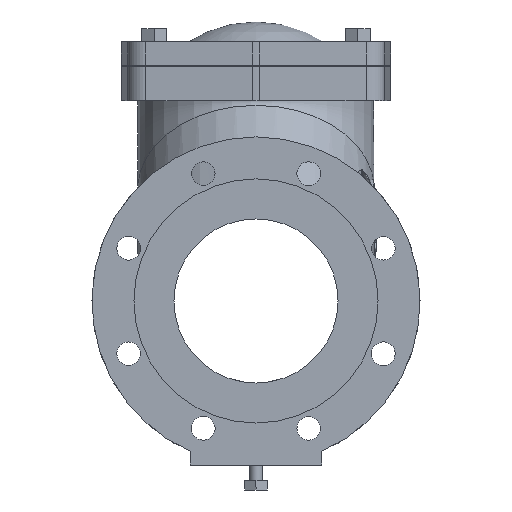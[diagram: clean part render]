
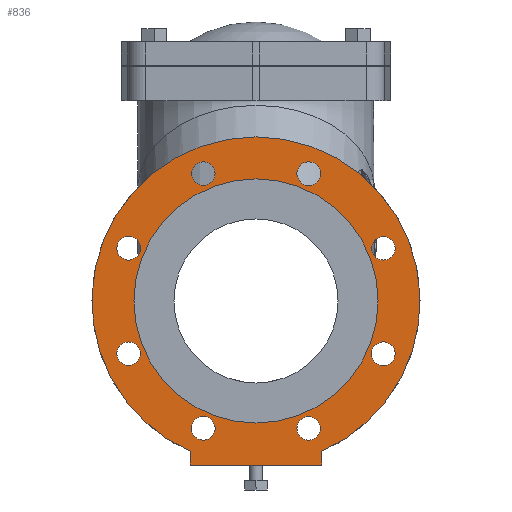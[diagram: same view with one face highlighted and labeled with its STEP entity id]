
A CAD part, front view. The second image highlights one B-rep face of the part: STEP entity #836.
In plain terms, the highlighted planar face has unit normal (0, -1, 0).
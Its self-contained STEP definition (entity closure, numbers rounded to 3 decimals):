
#836 = ADVANCED_FACE( '', ( #1819, #1820, #1821, #1822, #1823, #1824, #1825, #1826, #1827, #1828 ), #1829, .F. );
#1819 = FACE_OUTER_BOUND( '', #9473, .T. );
#1820 = FACE_BOUND( '', #9474, .T. );
#1821 = FACE_BOUND( '', #9475, .T. );
#1822 = FACE_BOUND( '', #9476, .T. );
#1823 = FACE_BOUND( '', #9477, .T. );
#1824 = FACE_BOUND( '', #9478, .T. );
#1825 = FACE_BOUND( '', #9479, .T. );
#1826 = FACE_BOUND( '', #9480, .T. );
#1827 = FACE_BOUND( '', #9481, .T. );
#1828 = FACE_BOUND( '', #9482, .T. );
#1829 = PLANE( '', #9483 );
#9473 = EDGE_LOOP( '', ( #13332, #13333, #13334, #13335 ) );
#9474 = EDGE_LOOP( '', ( #13336 ) );
#9475 = EDGE_LOOP( '', ( #13337 ) );
#9476 = EDGE_LOOP( '', ( #13338 ) );
#9477 = EDGE_LOOP( '', ( #13339 ) );
#9478 = EDGE_LOOP( '', ( #13340 ) );
#9479 = EDGE_LOOP( '', ( #13341 ) );
#9480 = EDGE_LOOP( '', ( #13342 ) );
#9481 = EDGE_LOOP( '', ( #13343 ) );
#9482 = EDGE_LOOP( '', ( #13344 ) );
#9483 = AXIS2_PLACEMENT_3D( '', #13345, #13346, #13347 );
#13332 = ORIENTED_EDGE( '', *, *, #15056, .T. );
#13333 = ORIENTED_EDGE( '', *, *, #14766, .T. );
#13334 = ORIENTED_EDGE( '', *, *, #14784, .T. );
#13335 = ORIENTED_EDGE( '', *, *, #15057, .T. );
#13336 = ORIENTED_EDGE( '', *, *, #14890, .F. );
#13337 = ORIENTED_EDGE( '', *, *, #15046, .T. );
#13338 = ORIENTED_EDGE( '', *, *, #14846, .T. );
#13339 = ORIENTED_EDGE( '', *, *, #15058, .T. );
#13340 = ORIENTED_EDGE( '', *, *, #14564, .T. );
#13341 = ORIENTED_EDGE( '', *, *, #14132, .T. );
#13342 = ORIENTED_EDGE( '', *, *, #14886, .T. );
#13343 = ORIENTED_EDGE( '', *, *, #14418, .T. );
#13344 = ORIENTED_EDGE( '', *, *, #14854, .T. );
#13345 = CARTESIAN_POINT( '', ( 0., -172., 93. ) );
#13346 = DIRECTION( '', ( 0., 1., 0. ) );
#13347 = DIRECTION( '', ( 0., 0., 1. ) );
#14132 = EDGE_CURVE( '', #15250, #15250, #15251, .T. );
#14418 = EDGE_CURVE( '', #15737, #15737, #15738, .T. );
#14564 = EDGE_CURVE( '', #15969, #15969, #15970, .T. );
#14766 = EDGE_CURVE( '', #16284, #16285, #16286, .T. );
#14784 = EDGE_CURVE( '', #16285, #16309, #16311, .T. );
#14846 = EDGE_CURVE( '', #16406, #16406, #16407, .T. );
#14854 = EDGE_CURVE( '', #16418, #16418, #16419, .T. );
#14886 = EDGE_CURVE( '', #16462, #16462, #16463, .T. );
#14890 = EDGE_CURVE( '', #16468, #16468, #16469, .T. );
#15046 = EDGE_CURVE( '', #16668, #16668, #16669, .T. );
#15056 = EDGE_CURVE( '', #16680, #16284, #16681, .T. );
#15057 = EDGE_CURVE( '', #16309, #16680, #16682, .T. );
#15058 = EDGE_CURVE( '', #16683, #16683, #16684, .T. );
#15250 = VERTEX_POINT( '', #17063 );
#15251 = CIRCLE( '', #17064, 9. );
#15737 = VERTEX_POINT( '', #19999 );
#15738 = CIRCLE( '', #20000, 9. );
#15969 = VERTEX_POINT( '', #20911 );
#15970 = CIRCLE( '', #20912, 9. );
#16284 = VERTEX_POINT( '', #22344 );
#16285 = VERTEX_POINT( '', #22345 );
#16286 = LINE( '', #22346, #22347 );
#16309 = VERTEX_POINT( '', #22386 );
#16311 = CIRCLE( '', #22389, 125. );
#16406 = VERTEX_POINT( '', #22687 );
#16407 = CIRCLE( '', #22688, 9. );
#16418 = VERTEX_POINT( '', #22920 );
#16419 = CIRCLE( '', #22921, 9. );
#16462 = VERTEX_POINT( '', #23484 );
#16463 = CIRCLE( '', #23485, 9. );
#16468 = VERTEX_POINT( '', #23490 );
#16469 = CIRCLE( '', #23491, 93. );
#16668 = VERTEX_POINT( '', #24124 );
#16669 = CIRCLE( '', #24125, 9. );
#16680 = VERTEX_POINT( '', #24184 );
#16681 = LINE( '', #24185, #24186 );
#16682 = LINE( '', #24187, #24188 );
#16683 = VERTEX_POINT( '', #24189 );
#16684 = CIRCLE( '', #24190, 9. );
#17063 = CARTESIAN_POINT( '', ( -33.818, -172., -90.643 ) );
#17064 = AXIS2_PLACEMENT_3D( '', #25103, #25104, #25105 );
#19999 = CARTESIAN_POINT( '', ( -90.643, -172., 33.818 ) );
#20000 = AXIS2_PLACEMENT_3D( '', #25225, #25226, #25227 );
#20911 = CARTESIAN_POINT( '', ( 40.182, -172., -88.007 ) );
#20912 = AXIS2_PLACEMENT_3D( '', #25309, #25310, #25311 );
#22344 = CARTESIAN_POINT( '', ( 50., -172., -125. ) );
#22345 = CARTESIAN_POINT( '', ( 50., -172., -114.564 ) );
#22346 = CARTESIAN_POINT( '', ( 50., -172., -125. ) );
#22347 = VECTOR( '', #25455, 1000. );
#22386 = CARTESIAN_POINT( '', ( -50., -172., -114.564 ) );
#22389 = AXIS2_PLACEMENT_3D( '', #25468, #25469, #25470 );
#22687 = CARTESIAN_POINT( '', ( 88.007, -172., 40.182 ) );
#22688 = AXIS2_PLACEMENT_3D( '', #25535, #25536, #25537 );
#22920 = CARTESIAN_POINT( '', ( -40.182, -172., 88.007 ) );
#22921 = AXIS2_PLACEMENT_3D( '', #25544, #25545, #25546 );
#23484 = CARTESIAN_POINT( '', ( -88.007, -172., -40.182 ) );
#23485 = AXIS2_PLACEMENT_3D( '', #25552, #25553, #25554 );
#23490 = CARTESIAN_POINT( '', ( 0., -172., -93. ) );
#23491 = AXIS2_PLACEMENT_3D( '', #25558, #25559, #25560 );
#24124 = CARTESIAN_POINT( '', ( 33.818, -172., 90.643 ) );
#24125 = AXIS2_PLACEMENT_3D( '', #25625, #25626, #25627 );
#24184 = CARTESIAN_POINT( '', ( -50., -172., -125. ) );
#24185 = CARTESIAN_POINT( '', ( -50., -172., -125. ) );
#24186 = VECTOR( '', #25629, 1000. );
#24187 = CARTESIAN_POINT( '', ( -50., -172., -125. ) );
#24188 = VECTOR( '', #25630, 1000. );
#24189 = CARTESIAN_POINT( '', ( 90.643, -172., -33.818 ) );
#24190 = AXIS2_PLACEMENT_3D( '', #25631, #25632, #25633 );
#25103 = CARTESIAN_POINT( '', ( -40.182, -172., -97.007 ) );
#25104 = DIRECTION( '', ( 0., 1., 0. ) );
#25105 = DIRECTION( '', ( 0.707, 0., 0.707 ) );
#25225 = CARTESIAN_POINT( '', ( -97.007, -172., 40.182 ) );
#25226 = DIRECTION( '', ( 0., 1., 0. ) );
#25227 = DIRECTION( '', ( 0.707, 0., -0.707 ) );
#25309 = CARTESIAN_POINT( '', ( 40.182, -172., -97.007 ) );
#25310 = DIRECTION( '', ( 0., 1., 0. ) );
#25311 = DIRECTION( '', ( 0., 0., 1. ) );
#25455 = DIRECTION( '', ( 0., 0., 1. ) );
#25468 = CARTESIAN_POINT( '', ( 0., -172., 0. ) );
#25469 = DIRECTION( '', ( 0., -1., 0. ) );
#25470 = DIRECTION( '', ( 0., 0., -1. ) );
#25535 = CARTESIAN_POINT( '', ( 97.007, -172., 40.182 ) );
#25536 = DIRECTION( '', ( 0., 1., 0. ) );
#25537 = DIRECTION( '', ( -1., 0., 0. ) );
#25544 = CARTESIAN_POINT( '', ( -40.182, -172., 97.007 ) );
#25545 = DIRECTION( '', ( 0., 1., 0. ) );
#25546 = DIRECTION( '', ( 0., 0., -1. ) );
#25552 = CARTESIAN_POINT( '', ( -97.007, -172., -40.182 ) );
#25553 = DIRECTION( '', ( 0., 1., 0. ) );
#25554 = DIRECTION( '', ( 1., 0., 0. ) );
#25558 = CARTESIAN_POINT( '', ( 0., -172., 0. ) );
#25559 = DIRECTION( '', ( 0., -1., 0. ) );
#25560 = DIRECTION( '', ( 0., 0., -1. ) );
#25625 = CARTESIAN_POINT( '', ( 40.182, -172., 97.007 ) );
#25626 = DIRECTION( '', ( 0., 1., 0. ) );
#25627 = DIRECTION( '', ( -0.707, 0., -0.707 ) );
#25629 = DIRECTION( '', ( 1., 0., 0. ) );
#25630 = DIRECTION( '', ( 0., 0., -1. ) );
#25631 = CARTESIAN_POINT( '', ( 97.007, -172., -40.182 ) );
#25632 = DIRECTION( '', ( 0., 1., 0. ) );
#25633 = DIRECTION( '', ( -0.707, 0., 0.707 ) );
